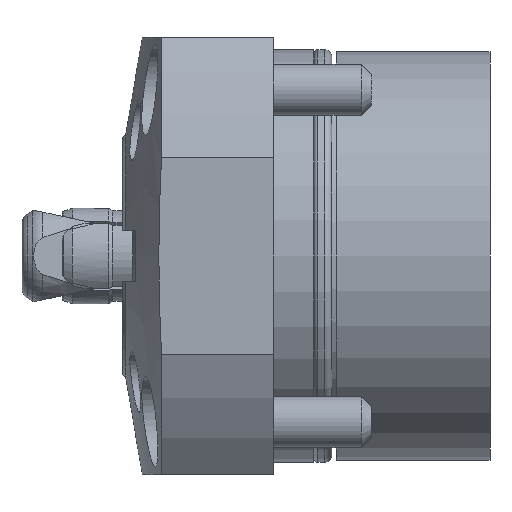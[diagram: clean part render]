
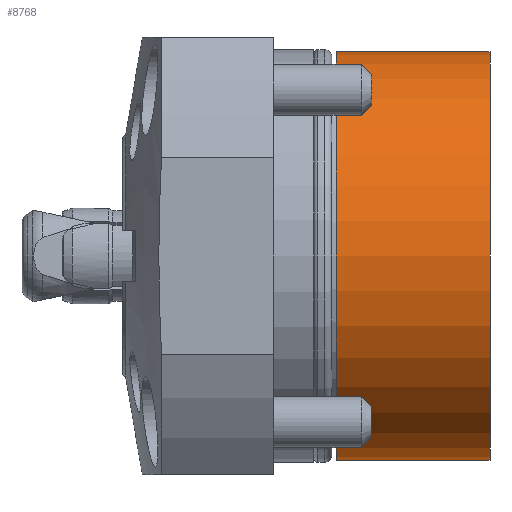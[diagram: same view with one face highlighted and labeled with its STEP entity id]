
A CAD part, left-side view. The second image highlights one B-rep face of the part: STEP entity #8768.
In plain terms, the highlighted cylindrical face has radius 20.3 mm (diameter 40.6 mm), a partial arc.
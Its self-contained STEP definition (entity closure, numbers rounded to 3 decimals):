
#4087 = DIRECTION ( 'NONE',  ( 0., 0., 1. ) ) ;
#4088 = DIRECTION ( 'NONE',  ( 0., 1., 0. ) ) ;
#4089 = CARTESIAN_POINT ( 'NONE',  ( 0., 33.82, 0. ) ) ;
#4095 = AXIS2_PLACEMENT_3D ( 'NONE', #4089, #4088, #4087 ) ;
#4110 = FACE_OUTER_BOUND ( 'NONE', #9711, .T. ) ;
#4114 = CYLINDRICAL_SURFACE ( 'NONE', #4095, 20.3 ) ;
#4134 = DIRECTION ( 'NONE',  ( 0., 0., 1. ) ) ;
#4135 = DIRECTION ( 'NONE',  ( 0., 1., 0. ) ) ;
#4136 = CARTESIAN_POINT ( 'NONE',  ( 0., 15.3, 0. ) ) ;
#4137 = AXIS2_PLACEMENT_3D ( 'NONE', #4136, #4135, #4134 ) ;
#4138 = CIRCLE ( 'NONE', #4137, 20.3 ) ;
#6059 = CARTESIAN_POINT ( 'NONE',  ( 0., 0., 20.3 ) ) ;
#6060 = CARTESIAN_POINT ( 'NONE',  ( 0., 15.3, -20.3 ) ) ;
#6097 = DIRECTION ( 'NONE',  ( 0., 1., 0. ) ) ;
#6098 = VECTOR ( 'NONE', #6097, 1000. ) ;
#6099 = CARTESIAN_POINT ( 'NONE',  ( 0., 33.82, 20.3 ) ) ;
#6100 = LINE ( 'NONE', #6099, #6098 ) ;
#6115 = CARTESIAN_POINT ( 'NONE',  ( 0., 15.3, 20.3 ) ) ;
#6118 = DIRECTION ( 'NONE',  ( 0., 1., 0. ) ) ;
#6119 = VECTOR ( 'NONE', #6118, 1000. ) ;
#6120 = CARTESIAN_POINT ( 'NONE',  ( 0., 33.82, -20.3 ) ) ;
#6121 = LINE ( 'NONE', #6120, #6119 ) ;
#6122 = CARTESIAN_POINT ( 'NONE',  ( 0., 0., -20.3 ) ) ;
#6167 = DIRECTION ( 'NONE',  ( 0., 0., 1. ) ) ;
#6168 = DIRECTION ( 'NONE',  ( 0., 1., 0. ) ) ;
#6169 = CARTESIAN_POINT ( 'NONE',  ( 0., 0., 0. ) ) ;
#6170 = AXIS2_PLACEMENT_3D ( 'NONE', #6169, #6168, #6167 ) ;
#6178 = CIRCLE ( 'NONE', #6170, 20.3 ) ;
#8764 = ORIENTED_EDGE ( 'NONE', *, *, #9690, .T. ) ;
#8767 = ORIENTED_EDGE ( 'NONE', *, *, #9709, .T. ) ;
#8768 = ADVANCED_FACE ( 'NONE', ( #4110 ), #4114, .T. ) ;
#8769 = ORIENTED_EDGE ( 'NONE', *, *, #9676, .F. ) ;
#8776 = EDGE_CURVE ( 'NONE', #9679, #9691, #4138, .T. ) ;
#8777 = ORIENTED_EDGE ( 'NONE', *, *, #8776, .F. ) ;
#9671 = VERTEX_POINT ( 'NONE', #6122 ) ;
#9673 = VERTEX_POINT ( 'NONE', #6059 ) ;
#9676 = EDGE_CURVE ( 'NONE', #9671, #9679, #6121, .T. ) ;
#9679 = VERTEX_POINT ( 'NONE', #6060 ) ;
#9690 = EDGE_CURVE ( 'NONE', #9673, #9691, #6100, .T. ) ;
#9691 = VERTEX_POINT ( 'NONE', #6115 ) ;
#9709 = EDGE_CURVE ( 'NONE', #9671, #9673, #6178, .T. ) ;
#9711 = EDGE_LOOP ( 'NONE', ( #8769, #8767, #8764, #8777 ) ) ;
